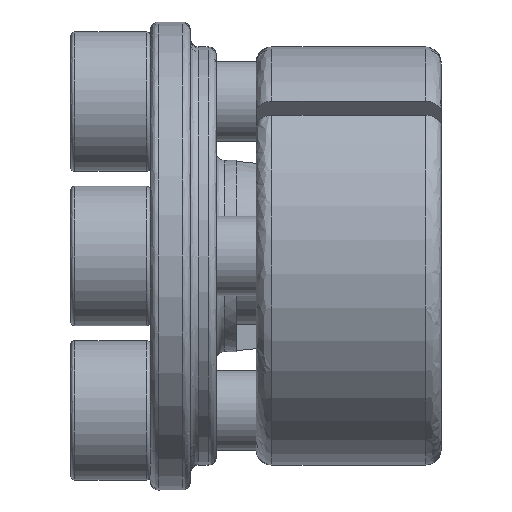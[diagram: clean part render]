
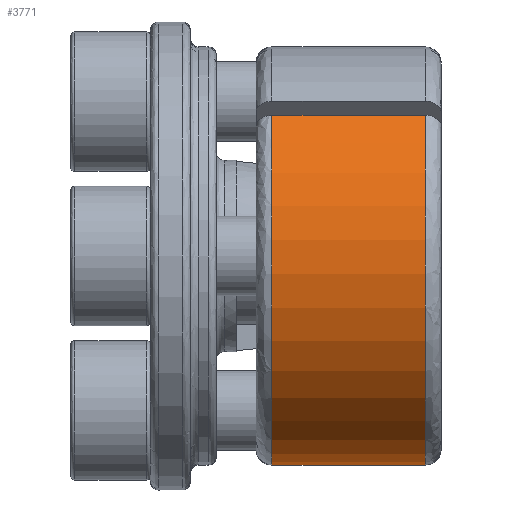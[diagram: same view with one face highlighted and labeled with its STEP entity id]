
A CAD part, front view. The second image highlights one B-rep face of the part: STEP entity #3771.
In plain terms, the highlighted cylindrical face has radius 10.5 mm (diameter 21 mm), a partial arc.
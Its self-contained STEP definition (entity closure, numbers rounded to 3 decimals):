
#62 = DIRECTION ( 'NONE',  ( 1., 0., 0. ) ) ;
#217 = VECTOR ( 'NONE', #2866, 1000. ) ;
#290 = CIRCLE ( 'NONE', #3845, 10.5 ) ;
#566 = CARTESIAN_POINT ( 'NONE',  ( 6.1, 0., 0. ) ) ;
#630 = FACE_OUTER_BOUND ( 'NONE', #5521, .T. ) ;
#927 = VECTOR ( 'NONE', #1255, 1000. ) ;
#1008 = LINE ( 'NONE', #6114, #927 ) ;
#1217 = CYLINDRICAL_SURFACE ( 'NONE', #2670, 10.5 ) ;
#1233 = LINE ( 'NONE', #6265, #217 ) ;
#1240 = CARTESIAN_POINT ( 'NONE',  ( 13.8, 0., -10.5 ) ) ;
#1255 = DIRECTION ( 'NONE',  ( -1., 0., 0. ) ) ;
#1273 = ORIENTED_EDGE ( 'NONE', *, *, #2079, .T. ) ;
#1408 = ORIENTED_EDGE ( 'NONE', *, *, #3118, .T. ) ;
#1906 = ORIENTED_EDGE ( 'NONE', *, *, #2716, .T. ) ;
#1943 = DIRECTION ( 'NONE',  ( 0., 0., -1. ) ) ;
#2040 = DIRECTION ( 'NONE',  ( 0., 0., -1. ) ) ;
#2072 = DIRECTION ( 'NONE',  ( -1., 0., 0. ) ) ;
#2079 = EDGE_CURVE ( 'NONE', #5597, #6281, #1233, .T. ) ;
#2258 = ORIENTED_EDGE ( 'NONE', *, *, #3364, .T. ) ;
#2666 = CARTESIAN_POINT ( 'NONE',  ( 13.8, -7.77, 7.063 ) ) ;
#2670 = AXIS2_PLACEMENT_3D ( 'NONE', #2898, #2799, #1943 ) ;
#2716 = EDGE_CURVE ( 'NONE', #5669, #5597, #290, .T. ) ;
#2799 = DIRECTION ( 'NONE',  ( 1., 0., 0. ) ) ;
#2866 = DIRECTION ( 'NONE',  ( 1., 0., 0. ) ) ;
#2898 = CARTESIAN_POINT ( 'NONE',  ( 15.53, 0., 0. ) ) ;
#3118 = EDGE_CURVE ( 'NONE', #6281, #5421, #5062, .T. ) ;
#3281 = CARTESIAN_POINT ( 'NONE',  ( 6.1, 0., -10.5 ) ) ;
#3364 = EDGE_CURVE ( 'NONE', #5421, #5669, #1008, .T. ) ;
#3423 = CARTESIAN_POINT ( 'NONE',  ( 13.8, 0., 0. ) ) ;
#3771 = ADVANCED_FACE ( 'NONE', ( #630 ), #1217, .T. ) ;
#3845 = AXIS2_PLACEMENT_3D ( 'NONE', #566, #62, #3981 ) ;
#3981 = DIRECTION ( 'NONE',  ( 0., 0., -1. ) ) ;
#4831 = CARTESIAN_POINT ( 'NONE',  ( 6.1, -7.77, 7.063 ) ) ;
#5062 = CIRCLE ( 'NONE', #5632, 10.5 ) ;
#5421 = VERTEX_POINT ( 'NONE', #2666 ) ;
#5521 = EDGE_LOOP ( 'NONE', ( #1906, #1273, #1408, #2258 ) ) ;
#5597 = VERTEX_POINT ( 'NONE', #3281 ) ;
#5632 = AXIS2_PLACEMENT_3D ( 'NONE', #3423, #2072, #2040 ) ;
#5669 = VERTEX_POINT ( 'NONE', #4831 ) ;
#6114 = CARTESIAN_POINT ( 'NONE',  ( 15.53, -7.77, 7.063 ) ) ;
#6265 = CARTESIAN_POINT ( 'NONE',  ( 15.53, 0., -10.5 ) ) ;
#6281 = VERTEX_POINT ( 'NONE', #1240 ) ;
